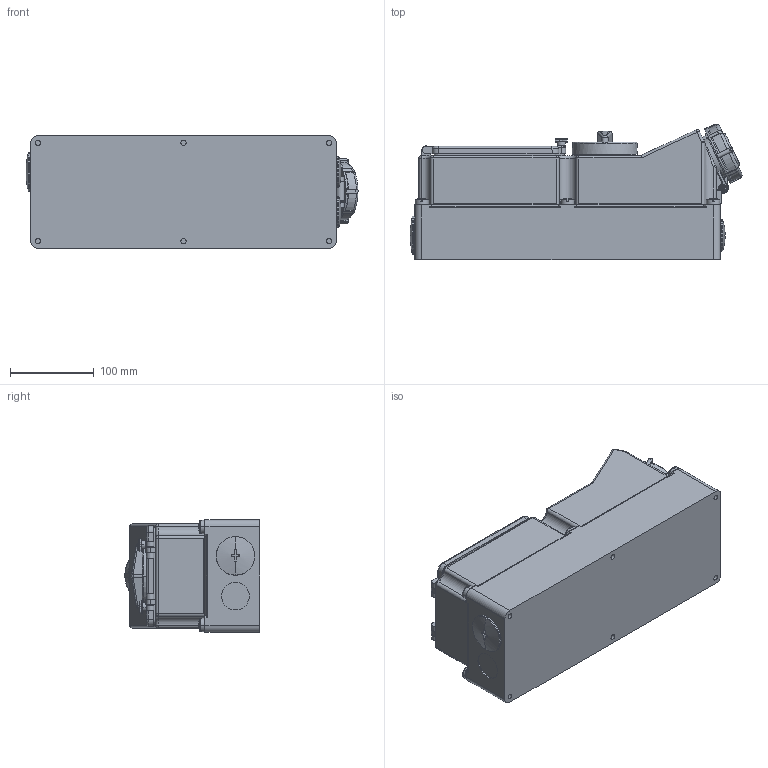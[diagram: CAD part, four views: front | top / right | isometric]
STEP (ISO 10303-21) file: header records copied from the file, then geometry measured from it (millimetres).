
FILE_DESCRIPTION((''),'2;1');
FILE_NAME('1114907_ASM_SW0001','2018-04-18T',('gisse'),('MENNEKES'),'PRO/ENGINEER BY PARAMETRIC TECHNOLOGY CORPORATION, 2015440','PRO/ENGINEER BY PARAMETRIC TECHNOLOGY CORPORATION, 2015440','');
FILE_SCHEMA(('AUTOMOTIVE_DESIGN { 1 0 10303 214 1 1 1 1 }'));
Products named in the file (1): 1114907_ASM_SW0001
Bounding box: 395.56 x 161.6 x 134 mm (x, y, z)
Volume: 6241667.4 mm3; surface area: 257956 mm2
Topology: 1 solids, 3 shells, 1653 faces, 4608 edges, 2997 vertices
Faces by surface type: plane 946, cylinder 281, cone 231, torus 90, bspline 77, sphere 28
Entity records: 95546 total; most frequent: CARTESIAN_POINT 21004, ORIENTED_EDGE 9212, DIRECTION 7744, PRESENTATION_STYLE_ASSIGNMENT 6241, STYLED_ITEM 4627, CURVE_STYLE 4606, EDGE_CURVE 4606, FILL_AREA_STYLE_COLOUR 3248
